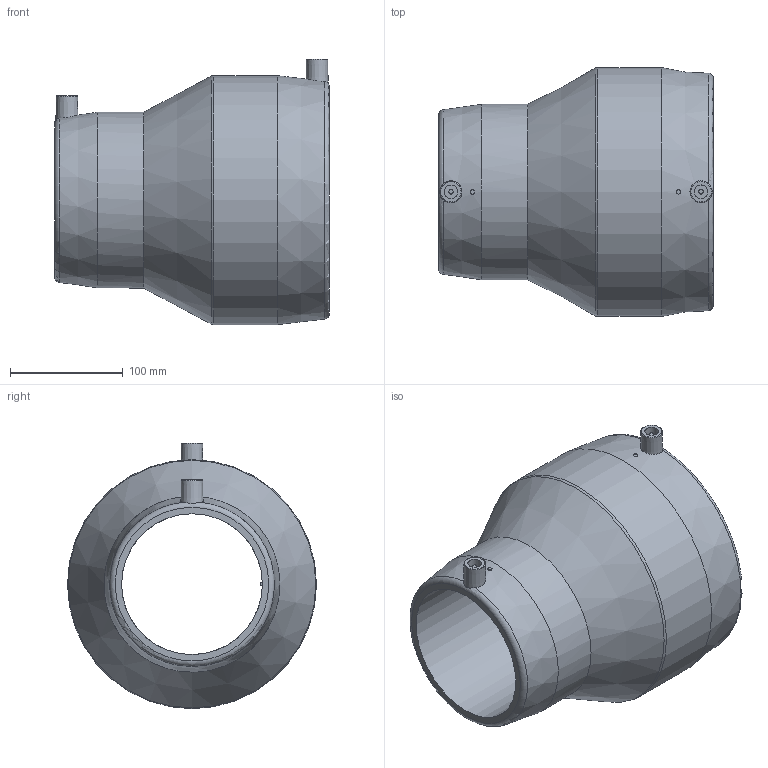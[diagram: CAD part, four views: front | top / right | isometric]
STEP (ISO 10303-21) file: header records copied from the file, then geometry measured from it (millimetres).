
FILE_DESCRIPTION(/* description */ ('Unknown'),/* implementation_level */ '2;1');
FILE_NAME(/* name */ 'REP180125C',/* time_stamp */ '2021-05-25T16:15:33+02:00',/* author */ ('Unknown'),/* organization */ ('Unknown'),/* preprocessor_version */ 'ST-DEVELOPER v16.7',/* originating_system */ 'Solid Edge',/* authorisation */ 'Unknown');
FILE_SCHEMA (('AUTOMOTIVE_DESIGN {1 0 10303 214 3 1 1}'));
Length unit declared in the file: millimetre
Products named in the file (1): REP180125C
Bounding box: 244 x 221 x 235.5 mm (x, y, z)
Volume: 2509346.4 mm3; surface area: 285762.7 mm2
Topology: 1 solids, 1 shells, 36 faces, 78 edges, 49 vertices
Faces by surface type: plane 15, cylinder 10, cone 6, torus 5
Full cylindrical faces by diameter (mm): 4 x3, 12 x2, 125 x1, 156 x1, 180 x1, 221 x1
Entity records: 856 total; most frequent: CARTESIAN_POINT 182, DIRECTION 142, ORIENTED_EDGE 92, AXIS2_PLACEMENT_3D 66, EDGE_LOOP 64, FACE_BOUND 64, EDGE_CURVE 46, VERTEX_POINT 38
